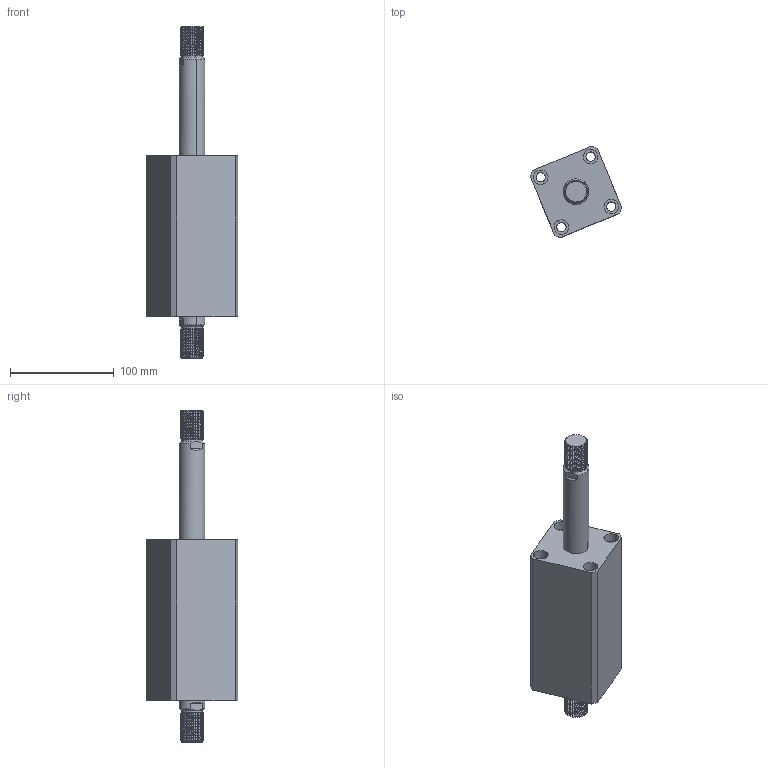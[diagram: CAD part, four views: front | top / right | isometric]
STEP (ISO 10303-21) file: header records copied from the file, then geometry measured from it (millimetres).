
FILE_DESCRIPTION (( 'STEP AP214' ), '1' );
FILE_NAME ('chtb-sw40x85w_asm.STEP', '2018-06-08T10:36:41', ( 'Windows' ), ( 'Microsoft' ), 'SwSTEP 2.0', 'SolidWorks 2015', '' );
FILE_SCHEMA (( 'AUTOMOTIVE_DESIGN' ));
Length unit declared in the file: millimetre
Products named in the file (4): CHTB-SW40X85NHSG; CHTB-SW40X85NBT; CHTB-SD40QG; chtb-sw40x85w_asm
Assembly tree (3 placements, depth 2):
  chtb-sw40x85w_asm
    CHTB-SD40QG
    CHTB-SW40X85NBT
    CHTB-SW40X85NHSG
Bounding box: 88.11 x 88.11 x 320 mm (x, y, z)
Volume: 710338 mm3; surface area: 129264.1 mm2
Topology: 3 solids, 3 shells, 254 faces, 680 edges, 452 vertices
Faces by surface type: cylinder 160, plane 46, bspline 18, cone 18, torus 12
Entity records: 17389 total; most frequent: CARTESIAN_POINT 11402, ORIENTED_EDGE 1348, DIRECTION 1094, EDGE_CURVE 674, VERTEX_POINT 452, AXIS2_PLACEMENT_3D 443, EDGE_LOOP 296, FACE_OUTER_BOUND 254
